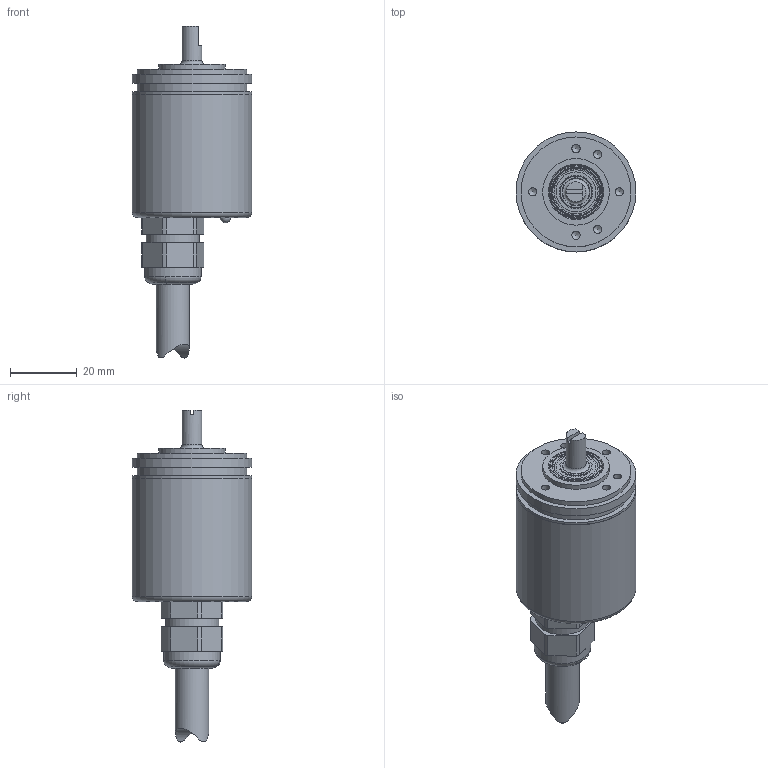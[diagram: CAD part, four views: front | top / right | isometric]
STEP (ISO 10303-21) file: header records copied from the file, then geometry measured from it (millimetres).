
FILE_DESCRIPTION (( 'STEP AP203' ), '1' );
FILE_NAME ('HTx36E S_PG-axial.STEP', '2021-06-09T16:57:10', ( '' ), ( '' ), 'SwSTEP 2.0', 'SolidWorks 2019', '' );
FILE_SCHEMA (( 'CONFIG_CONTROL_DESIGN' ));
Length unit declared in the file: millimetre
Products named in the file (1): HTx36E S_PG-axial
Bounding box: 36 x 36 x 99.67 mm (x, y, z)
Volume: 22828.6 mm3; surface area: 24279.4 mm2
Topology: 33 solids, 33 shells, 245 faces, 525 edges, 324 vertices
Faces by surface type: cylinder 86, plane 71, cone 35, torus 32, sphere 19, bspline 2
Full cylindrical faces by diameter (mm): 2.459 x6, 2.5 x1, 2.6 x1, 6 x1, 7.6 x1, 8 x6, 8.1 x1, 9.5 x8, 10 x2, 10.1 x4, 13.5 x1, 14 x4, 14.5 x8, 15 x1, 15.2 x1, 15.85 x1, 16 x7, 17 x1, 20 x1, 31.6 x1, 32 x1, 33 x2, 33.2 x1, 34 x3, 36 x3
Entity records: 6909 total; most frequent: CARTESIAN_POINT 2594, DIRECTION 965, ORIENTED_EDGE 596, AXIS2_PLACEMENT_3D 446, EDGE_LOOP 386, FACE_OUTER_BOUND 308, EDGE_CURVE 298, VERTEX_POINT 250
